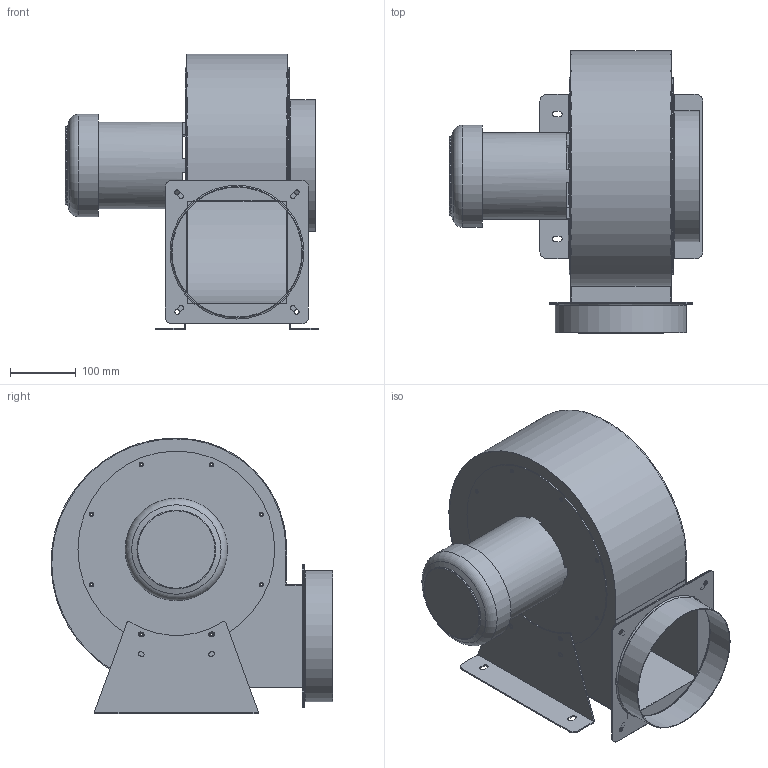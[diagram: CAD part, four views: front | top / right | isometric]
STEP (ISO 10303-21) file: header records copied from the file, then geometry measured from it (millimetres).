
FILE_DESCRIPTION(/* description */ ('Unknown'),/* implementation_level */ '2;1');
FILE_NAME(/* name */ 'CYT250A2P3Q-EG 型錄',/* time_stamp */ '2026-05-15T16:04:06+08:00',/* author */ ('Unknown'),/* organization */ ('Unknown'),/* preprocessor_version */ 'ST-DEVELOPER v20',/* originating_system */ 'Solid Edge',/* authorisation */ 'Unknown');
FILE_SCHEMA (('AUTOMOTIVE_DESIGN {1 0 10303 214 3 1 1}'));
Length unit declared in the file: millimetre
Products named in the file (8): CYT250A2P3Q-EG «¬¥4Ÿ; CYT250-01; CYT250-06V; JM1502P3V-EG(KAF731); CYT250-07V; CYT250-08; CYT250-04-8; CYS232-05
Assembly tree (8 placements, depth 2):
  CYT250A2P3Q-EG «¬¥4Ÿ
    CYT250-01
    CYT250-06V
    JM1502P3V-EG(KAF731)
    CYT250-07V  x2
    CYT250-08
    CYT250-04-8
    CYS232-05
Bounding box: 386 x 429.49 x 420.01 mm (x, y, z)
Volume: 3473932.8 mm3; surface area: 1312900.6 mm2
Topology: 8 solids, 8 shells, 278 faces, 745 edges, 490 vertices
Faces by surface type: cylinder 152, plane 117, torus 6, bspline 2, cone 1
Full cylindrical faces by diameter (mm): 3.1 x16, 5 x1, 6.5 x16, 7 x4, 8.2 x4, 14 x1, 30 x1, 120 x1, 132 x1, 156 x1, 198 x2, 200 x2, 260 x1, 262 x2, 300 x3
Entity records: 7774 total; most frequent: CARTESIAN_POINT 1523, DIRECTION 1297, ORIENTED_EDGE 1110, EDGE_CURVE 555, AXIS2_PLACEMENT_3D 506, EDGE_LOOP 431, FACE_BOUND 431, VERTEX_POINT 406
